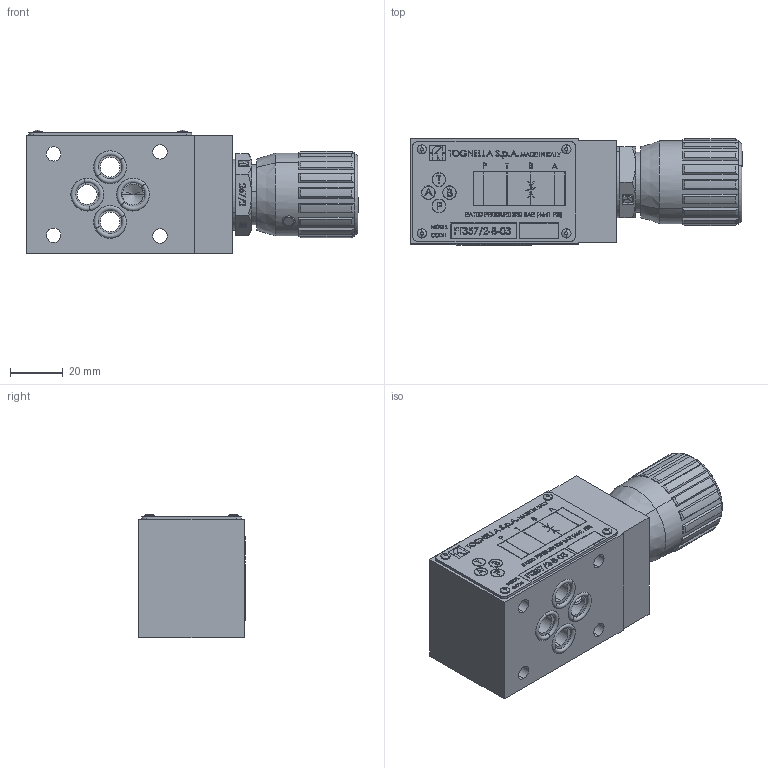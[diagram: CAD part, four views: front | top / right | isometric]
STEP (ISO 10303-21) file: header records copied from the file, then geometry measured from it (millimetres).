
FILE_DESCRIPTION (( 'STEP AP214' ), '1' );
FILE_NAME ('FT357-2-B-03.STEP', '2014-06-16T14:01:01', ( '' ), ( '' ), 'SwSTEP 2.0', 'SolidWorks 2014', '' );
FILE_SCHEMA (( 'AUTOMOTIVE_DESIGN' ));
Length unit declared in the file: millimetre
Products named in the file (15): HK060CK55-111; OR3068; FT267_2-38; OR2050; AnelloFT267_2-38; GranoFT267_2-38_Tipo14; DiscoFascetta267_2-38; CappuccioFT267_2-38_Tipo38; Volantino267_2-38_Tipo38; CorpoValvolaFT267_2-38; RivettoTarga; OR2037; 357-2-B015000; 357-6-B001000; FT357-2-B-03
Assembly tree (21 placements, depth 3):
  FT357-2-B-03
    357-6-B001000
    357-2-B015000
    OR2037  x4
    RivettoTarga  x4
    FT267_2-38
      CorpoValvolaFT267_2-38
      Volantino267_2-38_Tipo38
      CappuccioFT267_2-38_Tipo38
      DiscoFascetta267_2-38
      GranoFT267_2-38_Tipo14
      AnelloFT267_2-38  x2
      OR2050
    OR3068
    HK060CK55-111
Bounding box: 126.3 x 40.38 x 46.96 mm (x, y, z)
Volume: 155384.9 mm3; surface area: 50346.1 mm2
Topology: 20 solids, 20 shells, 1970 faces, 5090 edges, 3340 vertices
Faces by surface type: plane 1171, bspline 438, cylinder 210, cone 109, torus 42
Entity records: 99245 total; most frequent: CARTESIAN_POINT 38723, ORIENTED_EDGE 9940, DIRECTION 7489, EDGE_CURVE 4970, LINE 3425, VECTOR 3425, VERTEX_POINT 3278, EDGE_LOOP 2160
